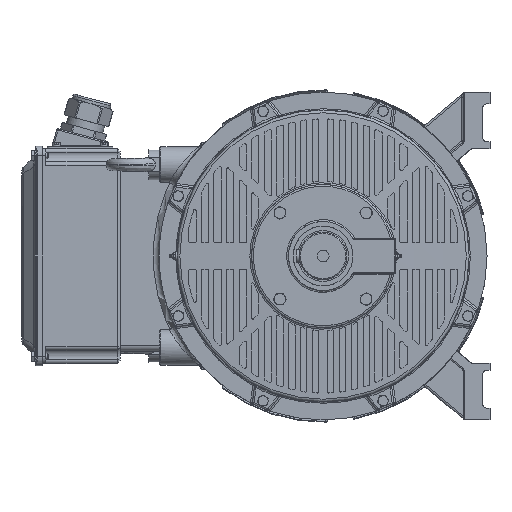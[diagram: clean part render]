
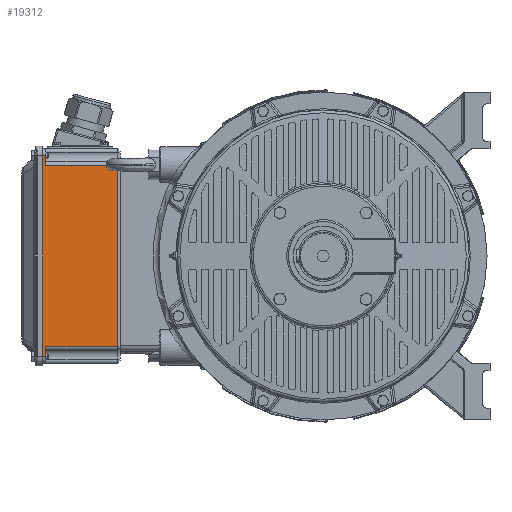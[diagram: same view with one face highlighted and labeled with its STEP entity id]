
A CAD part, left-side view. The second image highlights one B-rep face of the part: STEP entity #19312.
In plain terms, the highlighted planar face has unit normal (-1, 0, 0).
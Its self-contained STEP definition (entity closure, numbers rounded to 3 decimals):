
#18523=CARTESIAN_POINT('',(362.0,345.0,152.5));
#18524=VERTEX_POINT('',#18523);
#18548=CARTESIAN_POINT('',(362.,345.0,-152.5));
#18549=VERTEX_POINT('',#18548);
#18558=CARTESIAN_POINT('',(362.,345.0,152.5));
#18559=DIRECTION('',(0.0,0.0,-1.0));
#18560=VECTOR('',#18559,305.0);
#18561=LINE('',#18558,#18560);
#18562=EDGE_CURVE('',#18524,#18549,#18561,.T.);
#18764=CARTESIAN_POINT('',(362.0,465.0,152.5));
#18765=VERTEX_POINT('',#18764);
#18773=CARTESIAN_POINT('',(362.0,465.0,152.5));
#18774=DIRECTION('',(0.0,-1.0,0.0));
#18775=VECTOR('',#18774,120.0);
#18776=LINE('',#18773,#18775);
#18777=EDGE_CURVE('',#18765,#18524,#18776,.T.);
#19037=CARTESIAN_POINT('',(362.,465.0,-152.5));
#19038=VERTEX_POINT('',#19037);
#19039=CARTESIAN_POINT('',(362.,345.0,-152.5));
#19040=DIRECTION('',(0.0,1.0,0.0));
#19041=VECTOR('',#19040,120.0);
#19042=LINE('',#19039,#19041);
#19043=EDGE_CURVE('',#18549,#19038,#19042,.T.);
#19219=CARTESIAN_POINT('',(362.,465.0,168.5));
#19220=VERTEX_POINT('',#19219);
#19228=CARTESIAN_POINT('',(362.,465.0,168.5));
#19229=DIRECTION('',(0.0,0.0,-1.0));
#19230=VECTOR('',#19229,16.0);
#19231=LINE('',#19228,#19230);
#19232=EDGE_CURVE('',#19220,#18765,#19231,.T.);
#19271=CARTESIAN_POINT('',(362.0,479.5,-168.5));
#19272=DIRECTION('',(-1.0,0.0,0.0));
#19273=DIRECTION('',(0.0,1.0,0.0));
#19274=AXIS2_PLACEMENT_3D('',#19271,#19272,#19273);
#19275=PLANE('',#19274);
#19276=ORIENTED_EDGE('',*,*,#18562,.F.);
#19277=ORIENTED_EDGE('',*,*,#18777,.F.);
#19278=ORIENTED_EDGE('',*,*,#19232,.F.);
#19279=CARTESIAN_POINT('',(362.,479.5,168.5));
#19280=VERTEX_POINT('',#19279);
#19281=CARTESIAN_POINT('',(362.,479.5,168.5));
#19282=DIRECTION('',(0.0,-1.0,0.0));
#19283=VECTOR('',#19282,14.5);
#19284=LINE('',#19281,#19283);
#19285=EDGE_CURVE('',#19280,#19220,#19284,.T.);
#19286=ORIENTED_EDGE('',*,*,#19285,.F.);
#19287=CARTESIAN_POINT('',(362.0,479.5,-168.5));
#19288=VERTEX_POINT('',#19287);
#19289=CARTESIAN_POINT('',(362.,479.5,168.5));
#19290=DIRECTION('',(0.0,0.0,-1.0));
#19291=VECTOR('',#19290,337.);
#19292=LINE('',#19289,#19291);
#19293=EDGE_CURVE('',#19280,#19288,#19292,.T.);
#19294=ORIENTED_EDGE('',*,*,#19293,.T.);
#19295=CARTESIAN_POINT('',(362.0,465.0,-168.5));
#19296=VERTEX_POINT('',#19295);
#19297=CARTESIAN_POINT('',(362.0,479.5,-168.5));
#19298=DIRECTION('',(0.0,-1.0,0.0));
#19299=VECTOR('',#19298,14.5);
#19300=LINE('',#19297,#19299);
#19301=EDGE_CURVE('',#19288,#19296,#19300,.T.);
#19302=ORIENTED_EDGE('',*,*,#19301,.T.);
#19303=CARTESIAN_POINT('',(362.,465.0,-152.5));
#19304=DIRECTION('',(0.0,0.0,-1.0));
#19305=VECTOR('',#19304,16.);
#19306=LINE('',#19303,#19305);
#19307=EDGE_CURVE('',#19038,#19296,#19306,.T.);
#19308=ORIENTED_EDGE('',*,*,#19307,.F.);
#19309=ORIENTED_EDGE('',*,*,#19043,.F.);
#19310=EDGE_LOOP('',(#19276,#19277,#19278,#19286,#19294,#19302,#19308,#19309));
#19311=FACE_OUTER_BOUND('',#19310,.T.);
#19312=ADVANCED_FACE('',(#19311),#19275,.T.);
